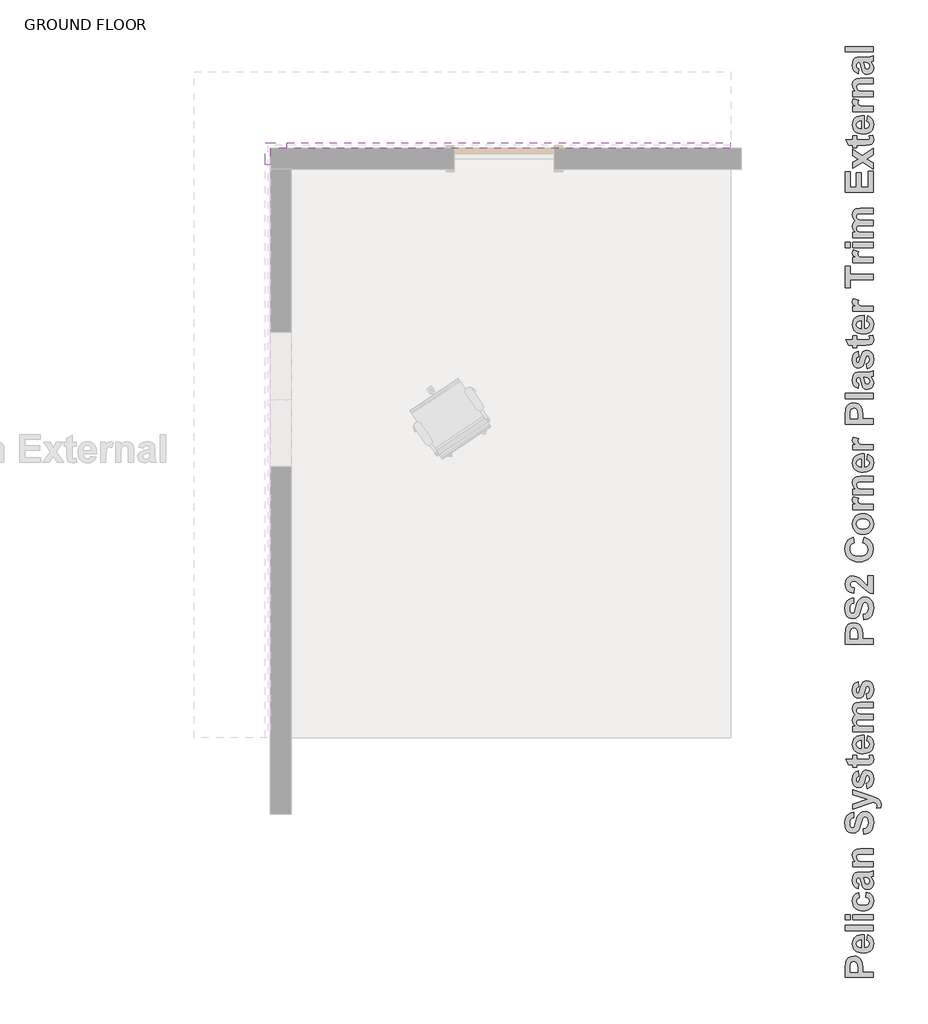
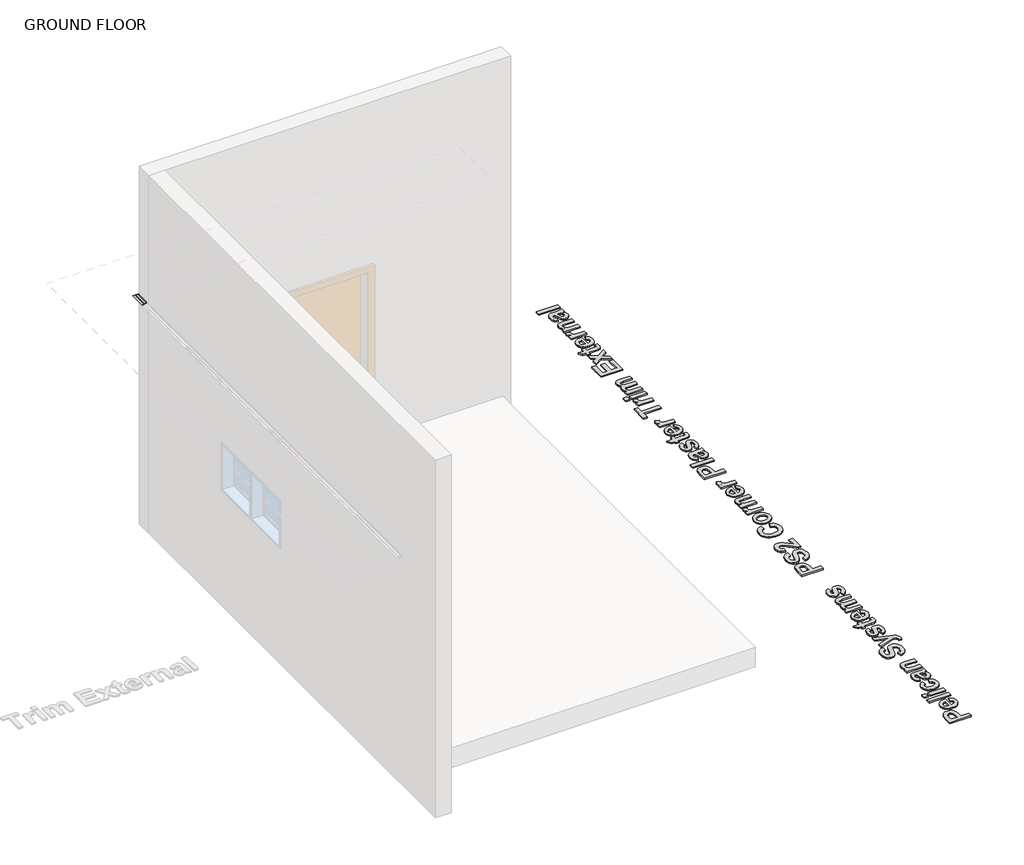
# One storey, part 2 of 2: 3 proxies.
"""IFC4 building model written with IfcOpenShell, lengths in millimetres."""

from ifc_helpers import new_model, si_unit, frame, origin, origin_with_axes, place, context, project, spatial, polyline, outline, extrude, transform, mapped, element, save
from components import ps2_corner_trim_external_86b60009

model = new_model("IFC4")

# Units and contexts
model_context = context("Model", 3, world=origin())
ifc_project = project(units=[si_unit("LENGTHUNIT", "METRE", prefix="MILLI")], contexts=[model_context])

# Site, building, storey
site = spatial("IfcSite", under=ifc_project)
building = spatial("IfcBuilding", under=site)
storey = spatial("IfcBuildingStorey", under=building, Name="GROUND FLOOR", Elevation=0.0)

# Proxies
placement = place(None, origin())
element("IfcBuildingElementProxy", 1, Name="600mm Arial", ObjectType="600mm Arial", at=placement, inside=storey, context=model_context, shape_type="SweptSolid", body=[
    extrude(outline(polyline([(118270.0526446, 57717.1226699), (118014.9877946, 57717.1226699), (118014.9877946, 57799.2975806), (118018.7834025, 57860.2170872), (118027.8375088, 57880.2626413), (118043.6130041, 57896.7498131), (118065.5247321, 57907.7807985), (118092.9875366, 57911.4577937), (118114.4722588, 57909.2990417), (118132.2404482, 57902.8227857), (118146.4423477, 57893.0174654), (118157.2282001, 57880.8715201), (118169.2792552, 57853.8278139), (118172.8850827, 57799.7404015), (118172.8850827, 57765.7064508), (118270.0526446, 57765.7064508), (118270.0526446, 57717.1226699)]), holes=[polyline([(118059.5229271, 57765.7064508), (118128.3499501, 57765.7064508), (118128.3499501, 57795.8815335), (118124.5543422, 57839.436134), (118112.6298075, 57856.6428898), (118103.8445567, 57861.316232), (118093.7466582, 57862.8740127), (118081.6797882, 57860.6836307), (118071.9219129, 57854.1124845), (118064.9316684, 57844.2043664), (118061.1676905, 57832.0030686), (118059.5229271, 57792.3389662), (118059.5229271, 57765.7064508)])]), origin_with_axes(), (0.0, 0.0, 1.0), 15.0),
    extrude(outline(polyline([(118213.3715668, 58057.2091365), (118221.4688636, 58105.7929175), (118244.1397132, 58093.9632729), (118260.658515, 58076.8197773), (118270.7405985, 58054.536396), (118274.101293, 58027.2870943), (118272.1204601, 58005.2844299), (118266.1779615, 57986.3419743), (118256.2737972, 57970.4597275), (118242.4079671, 57957.6376896), (118213.7036825, 57944.2581718), (118178.325454, 57939.7983326), (118156.4848936, 57941.2770381), (118137.1431084, 57945.7131548), (118120.3000984, 57953.1066827), (118105.9558636, 57963.4576217), (118094.4978723, 57976.0701104), (118086.3135928, 57990.2482874), (118081.4030251, 58005.9921526), (118079.7661692, 58023.3017061), (118081.4465164, 58042.5367398), (118086.4875581, 58059.6288365), (118094.8892944, 58074.5779964), (118106.651725, 58087.3842192), (118121.8855554, 58097.5888692), (118140.7014908, 58104.7333103), (118163.0995311, 58108.8175425), (118189.0796763, 58109.8415659), (118189.0796763, 57988.3821135), (118209.5443288, 57991.497675), (118224.8849107, 57999.8321973), (118234.4688206, 58012.1204778), (118237.6634573, 58027.0973139), (118236.2242893, 58037.2980101), (118231.9067853, 58045.7590527), (118224.3946447, 58052.4171816), (118213.3715668, 58057.2091365)]), holes=[polyline([(118160.7391374, 58061.2577849), (118141.53178, 58058.3003738), (118127.5591985, 58050.4403025), (118119.0428033, 58039.0218487), (118116.2040049, 58025.3892904), (118119.1930461, 58010.9976105), (118128.1601697, 57999.3261162), (118142.3146241, 57991.6716403), (118160.7391374, 57989.2044952), (118160.7391374, 58061.2577849)])]), origin_with_axes(), (0.0, 0.0, 1.0), 15.0),
    extrude(outline(polyline([(118270.0526446, 58146.2794016), (118014.9877946, 58146.2794016), (118014.9877946, 58194.8631825), (118270.0526446, 58194.8631825), (118270.0526446, 58146.2794016)])), origin_with_axes(), (0.0, 0.0, 1.0), 15.0),
    extrude(outline(polyline([(118059.5229271, 58243.4469635), (118014.9877946, 58243.4469635), (118014.9877946, 58292.0307444), (118059.5229271, 58292.0307444), (118059.5229271, 58243.4469635)])), origin_with_axes(), (0.0, 0.0, 1.0), 15.0),
    extrude(outline(polyline([(118270.0526446, 58243.4469635), (118083.8148176, 58243.4469635), (118083.8148176, 58292.0307444), (118270.0526446, 58292.0307444), (118270.0526446, 58243.4469635)])), origin_with_axes(), (0.0, 0.0, 1.0), 15.0),
    extrude(outline(polyline([(118136.447247, 58494.4631651), (118144.5445438, 58445.8793841), (118132.1850956, 58442.1549439), (118123.3207697, 58435.5363526), (118117.9831961, 58426.2608359), (118116.2040049, 58414.5656191), (118119.5409768, 58399.161777), (118129.5518926, 58387.2372423), (118147.3754347, 58379.5985814), (118174.1502853, 58377.0523611), (118203.835102, 58379.7013791), (118223.3034074, 58387.6484331), (118234.0734448, 58400.0553264), (118237.6634573, 58416.0838622), (118235.6154105, 58428.2218999), (118229.4712702, 58437.9402376), (118218.3137646, 58445.1914302), (118201.2256216, 58449.9280325), (118209.3229184, 58498.5118135), (118237.4657694, 58487.8762039), (118257.748549, 58470.5192053), (118270.013107, 58446.2826675), (118274.101293, 58415.00844), (118272.4921134, 58396.2419266), (118267.6645746, 58379.4799687), (118259.6186766, 58364.7225661), (118248.3544195, 58351.969719), (118234.2474102, 58341.6879708), (118217.6732557, 58334.3438649), (118198.6319562, 58329.9374013), (118177.1235115, 58328.4685802), (118155.3719106, 58329.9275169), (118136.1704839, 58334.3043273), (118119.5192312, 58341.5990112), (118105.4181525, 58351.8115687), (118094.1954098, 58364.5149938), (118086.179165, 58379.2822807), (118081.3694181, 58396.1134295), (118079.7661692, 58415.00844), (118083.269199, 58444.2504357), (118093.7782883, 58466.8184876), (118111.4515875, 58483.345197), (118136.447247, 58494.4631651)])), origin_with_axes(), (0.0, 0.0, 1.0), 15.0),
    extrude(outline(polyline([(118140.4958954, 58575.4361333), (118132.3985985, 58530.9010008), (118109.05561, 58540.5560783), (118092.671236, 58555.3510416), (118082.9924359, 58576.9148389), (118079.7661692, 58606.8764186), (118081.7193257, 58633.9675699), (118087.5787954, 58653.1195747), (118096.4352138, 58666.0562716), (118107.3792166, 58674.5014992), (118124.3882844, 58679.1511188), (118151.4398981, 58680.700992), (118208.8800975, 58680.700992), (118245.0648926, 58683.2630274), (118270.0526446, 58692.8469373), (118270.0526446, 58644.2631563), (118254.6171725, 58639.7084269), (118248.4809397, 58638.0004033), (118267.6803896, 58612.0004893), (118272.4960671, 58597.6878846), (118274.101293, 58582.4580079), (118270.2028874, 58557.6837589), (118258.5076706, 58538.7768871), (118240.8660014, 58526.7969998), (118219.1282388, 58522.803704), (118204.2304778, 58524.5828952), (118191.0407404, 58529.9204687), (118180.1441827, 58538.468494), (118172.1259611, 58549.8790402), (118160.6758773, 58586.8862171), (118148.5931922, 58632.1172111), (118143.4691215, 58632.1172111), (118130.8487253, 58630.6068755), (118122.4667579, 58626.0758685), (118117.7696931, 58617.369693), (118116.2040049, 58603.3338513), (118117.5482827, 58593.2596754), (118121.5811161, 58585.6842746), (118140.4958954, 58575.4361333)]), holes=[polyline([(118185.0310279, 58632.1172111), (118191.7682319, 58604.7255742), (118199.4543379, 58580.1806432), (118206.3655072, 58573.5857745), (118214.9530701, 58571.3874849), (118223.5643555, 58573.1508611), (118230.9262533, 58578.4409896), (118235.9791563, 58586.4513037), (118237.6634573, 58596.3752368), (118235.7023932, 58608.2839566), (118229.819201, 58619.5917051), (118215.2693707, 58630.3459274), (118193.8241862, 58632.1172111), (118185.0310279, 58632.1172111)])]), origin_with_axes(), (0.0, 0.0, 1.0), 15.0),
    extrude(outline(polyline([(118270.0526446, 58895.2793579), (118270.0526446, 58846.695577), (118174.3400657, 58846.695577), (118134.9922639, 58843.6590907), (118121.1382951, 58833.72725), (118116.2040049, 58817.2163557), (118117.9673811, 58805.4578788), (118123.2575095, 58794.9804195), (118131.4655116, 58786.6933423), (118141.9825085, 58781.5060115), (118185.094288, 58777.8685539), (118270.0526446, 58777.8685539), (118270.0526446, 58729.284773), (118083.8148176, 58729.284773), (118083.8148176, 58777.8685539), (118110.6371133, 58777.8685539), (118097.1310753, 58790.1607882), (118087.4839052, 58803.9475431), (118081.6956032, 58819.2288186), (118079.7661692, 58836.0046147), (118085.6493614, 58864.2186334), (118100.6420126, 58883.5762336), (118121.2964455, 58892.7173226), (118154.4131243, 58895.2793579), (118270.0526446, 58895.2793579)])), origin_with_axes(), (0.0, 0.0, 1.0), 15.0),
    extrude(outline(polyline([(118185.0310279, 59028.8847555), (118180.9823795, 59077.4685365), (118202.7122346, 59084.5536712), (118217.799776, 59096.4465759), (118226.6245643, 59113.2263258), (118229.5661604, 59134.971996), (118226.9645875, 59157.5400479), (118219.1598688, 59173.7504565), (118207.8758429, 59183.5241468), (118194.8363483, 59186.7820436), (118179.6222867, 59181.3733024), (118168.709914, 59162.426893), (118157.8924315, 59120.2956455), (118146.7112033, 59084.3322607), (118133.0311999, 59060.9576422), (118109.7356564, 59042.9759498), (118081.8537535, 59036.9820523), (118063.0654945, 59039.7338681), (118045.5424381, 59047.9893152), (118030.6604921, 59061.4320932), (118019.7955646, 59079.7459012), (118013.1532508, 59102.6302538), (118010.9391462, 59129.7846652), (118016.4585926, 59171.7498549), (118023.3579007, 59188.2904024), (118033.016932, 59201.869585), (118044.9770506, 59212.530894), (118058.7796206, 59220.3178208), (118074.4246418, 59225.2303654), (118091.9121144, 59227.2685277), (118091.9121144, 59178.6847468), (118075.2193472, 59173.3155431), (118063.9827664, 59164.0400264), (118057.6014006, 59150.0041847), (118055.4742787, 59130.3540064), (118057.7358284, 59109.6679434), (118064.5204775, 59094.0426909), (118071.3209416, 59087.6850477), (118080.0824698, 59085.5658333), (118088.353732, 59087.4952673), (118095.3281615, 59093.2835693), (118103.496626, 59110.0870418), (118111.933946, 59140.8868182), (118120.7112893, 59173.7583641), (118129.8998233, 59196.7771444), (118141.025699, 59212.9084779), (118155.6150668, 59225.1176833), (118173.8497997, 59232.8037892), (118195.9117705, 59235.3658246), (118216.9773943, 59232.3372458), (118236.6512952, 59223.2515094), (118253.1938195, 59208.622604), (118264.8653138, 59188.9645181), (118271.7922982, 59164.0637489), (118274.101293, 59133.7067933), (118272.6799169, 59111.0043137), (118268.4157887, 59091.1010948), (118261.3089083, 59073.9971368), (118251.3592757, 59059.6924395), (118238.6855038, 59048.0881592), (118223.4062051, 59039.0854517), (118205.5213799, 59032.6843172), (118185.0310279, 59028.8847555)])), origin_with_axes(), (0.0, 0.0, 1.0), 15.0),
    extrude(outline(polyline([(118083.8148176, 59255.6090666), (118083.8148176, 59304.1928476), (118215.6489315, 59346.7036559), (118083.8148176, 59389.2144642), (118083.8148176, 59437.7982452), (118262.2716484, 59374.7911543), (118295.4199573, 59363.08803), (118319.0159863, 59351.543056), (118332.2373538, 59338.9226597), (118340.1132401, 59321.3679733), (118342.928316, 59297.8668344), (118340.1448702, 59271.8036603), (118304.1498554, 59267.7550119), (118306.4904803, 59287.049352), (118303.9205374, 59300.8163381), (118296.2107089, 59310.4872307), (118270.0526446, 59322.1587249), (118083.8148176, 59255.6090666)])), origin_with_axes(), (0.0, 0.0, 1.0), 15.0),
    extrude(outline(polyline([(118217.4202152, 59445.895542), (118209.3229184, 59494.479323), (118221.5637538, 59499.1052201), (118230.4518023, 59506.9099388), (118235.8605435, 59518.1623347), (118237.6634573, 59533.1312633), (118235.9396187, 59549.373302), (118230.7681029, 59561.0289812), (118225.1379512, 59565.7734911), (118217.8630361, 59567.3549944), (118208.7535772, 59564.0022074), (118202.3643039, 59548.1239144), (118189.9336881, 59501.2007119), (118178.5784945, 59475.3115031), (118160.5968021, 59459.3225049), (118136.7635476, 59453.9928388), (118114.5750565, 59458.5633833), (118096.2138034, 59472.2750168), (118083.8780777, 59495.6021903), (118079.7661692, 59529.0193547), (118083.0873261, 59560.886646), (118093.0507968, 59583.3598076), (118109.530061, 59598.3682738), (118132.3985985, 59607.8414785), (118140.4958954, 59559.2576976), (118130.1054188, 59555.6835001), (118122.4667579, 59549.8951981), (118117.7696931, 59541.5448608), (118116.2040049, 59530.2845574), (118117.5324676, 59516.4464036), (118121.5178559, 59507.1946094), (118131.3864364, 59502.5766198), (118140.1795947, 59507.1946094), (118153.780523, 59550.1798687), (118163.6016584, 59581.4066511), (118175.4787481, 59601.5154654), (118191.1514456, 59612.3329478), (118211.9798439, 59615.9387753), (118235.6786706, 59610.711907), (118255.7874849, 59595.0313019), (118263.7997759, 59583.3222469), (118269.522841, 59569.1025555), (118274.101293, 59533.1312633), (118270.2898701, 59499.8168966), (118258.8556013, 59474.267711), (118240.8739089, 59456.3413712), (118217.4202152, 59445.895542)])), origin_with_axes(), (0.0, 0.0, 1.0), 15.0),
    extrude(outline(polyline([(118083.8148176, 59749.544173), (118120.2526533, 59749.544173), (118120.2526533, 59713.1063372), (118200.1501993, 59713.1063372), (118228.395848, 59714.2133895), (118235.0381618, 59719.24257), (118237.6634573, 59728.7948498), (118232.9822075, 59751.5684972), (118267.5222393, 59753.5928214), (118272.4565296, 59734.8520074), (118274.101293, 59713.8021987), (118269.5465635, 59689.2572677), (118257.7801791, 59673.2208244), (118238.2327984, 59666.1040596), (118202.870385, 59664.5225563), (118120.2526533, 59664.5225563), (118120.2526533, 59640.2306658), (118083.8148176, 59640.2306658), (118083.8148176, 59664.5225563), (118047.3769819, 59664.5225563), (118019.036443, 59713.1063372), (118083.8148176, 59713.1063372), (118083.8148176, 59749.544173)])), origin_with_axes(), (0.0, 0.0, 1.0), 15.0),
    extrude(outline(polyline([(118213.3715668, 59883.1495706), (118221.4688636, 59931.7333515), (118244.1397132, 59919.9037069), (118260.658515, 59902.7602113), (118270.7405985, 59880.47683), (118274.101293, 59853.2275284), (118272.1204601, 59831.2248639), (118266.1779615, 59812.2824083), (118256.2737972, 59796.4001616), (118242.4079671, 59783.5781237), (118213.7036825, 59770.1986059), (118178.325454, 59765.7387666), (118156.4848936, 59767.2174722), (118137.1431084, 59771.6535889), (118120.3000984, 59779.0471168), (118105.9558636, 59789.3980558), (118094.4978723, 59802.0105445), (118086.3135928, 59816.1887214), (118081.4030251, 59831.9325866), (118079.7661692, 59849.2421401), (118081.4465164, 59868.4771738), (118086.4875581, 59885.5692706), (118094.8892944, 59900.5184304), (118106.651725, 59913.3246533), (118121.8855554, 59923.5293032), (118140.7014908, 59930.6737443), (118163.0995311, 59934.7579766), (118189.0796763, 59935.7819999), (118189.0796763, 59814.3225476), (118209.5443288, 59817.438109), (118224.8849107, 59825.7726313), (118234.4688206, 59838.0609119), (118237.6634573, 59853.037748), (118236.2242893, 59863.2384442), (118231.9067853, 59871.6994868), (118224.3946447, 59878.3576156), (118213.3715668, 59883.1495706)]), holes=[polyline([(118160.7391374, 59887.198219), (118141.53178, 59884.2408078), (118127.5591985, 59876.3807365), (118119.0428033, 59864.9622828), (118116.2040049, 59851.3297245), (118119.1930461, 59836.9380445), (118128.1601697, 59825.2665503), (118142.3146241, 59817.6120744), (118160.7391374, 59815.1449293), (118160.7391374, 59887.198219)])]), origin_with_axes(), (0.0, 0.0, 1.0), 15.0),
    extrude(outline(polyline([(118083.8148176, 59968.1711872), (118083.8148176, 60016.7549682), (118108.7393094, 60016.7549682), (118096.0635605, 60028.7150868), (118087.0094542, 60041.7585351), (118081.5769904, 60055.8853132), (118079.7661692, 60071.0954211), (118081.5453604, 60086.7443961), (118086.882934, 60100.1634515), (118095.826335, 60111.3684023), (118108.4230087, 60120.3750635), (118095.826335, 60132.8135868), (118086.882934, 60146.2168272), (118081.5453604, 60160.5689695), (118079.7661692, 60175.8541988), (118081.845846, 60194.3103421), (118088.0848765, 60209.6983691), (118098.3567403, 60221.8126843), (118112.5349173, 60230.4476922), (118128.1127246, 60234.1484099), (118151.0603373, 60235.3819825), (118270.0526446, 60235.3819825), (118270.0526446, 60186.7982015), (118162.8267218, 60186.7982015), (118139.8791091, 60185.5646289), (118126.831707, 60181.8639113), (118118.8609304, 60173.4819438), (118116.2040049, 60161.4941489), (118117.7934157, 60151.7916263), (118122.5616481, 60142.6742598), (118130.3979969, 60135.0830441), (118141.1917568, 60129.9589734), (118179.9702174, 60126.0684753), (118270.0526446, 60126.0684753), (118270.0526446, 60077.4846944), (118167.254931, 60077.4846944), (118131.9241476, 60074.9542891), (118120.094503, 60067.1416629), (118116.2040049, 60052.749983), (118117.7459706, 60042.3595064), (118122.3718677, 60033.0760821), (118129.9156384, 60025.5797565), (118140.2112248, 60020.5505761), (118178.8947952, 60016.7549682), (118270.0526446, 60016.7549682), (118270.0526446, 59968.1711872), (118083.8148176, 59968.1711872)])), origin_with_axes(), (0.0, 0.0, 1.0), 15.0),
    extrude(outline(polyline([(118217.4202152, 60263.7225213), (118209.3229184, 60312.3063023), (118221.5637538, 60316.9321994), (118230.4518023, 60324.7369181), (118235.8605435, 60335.989314), (118237.6634573, 60350.9582426), (118235.9396187, 60367.2002814), (118230.7681029, 60378.8559606), (118225.1379512, 60383.6004704), (118217.8630361, 60385.1819737), (118208.7535772, 60381.8291868), (118202.3643039, 60365.9508938), (118189.9336881, 60319.0276913), (118178.5784945, 60293.1384825), (118160.5968021, 60277.1494842), (118136.7635476, 60271.8198182), (118114.5750565, 60276.3903627), (118096.2138034, 60290.1019962), (118083.8780777, 60313.4291696), (118079.7661692, 60346.8463341), (118083.0873261, 60378.7136253), (118093.0507968, 60401.186787), (118109.530061, 60416.1952532), (118132.3985985, 60425.6684578), (118140.4958954, 60377.0846769), (118130.1054188, 60373.5104795), (118122.4667579, 60367.7221774), (118117.7696931, 60359.3718401), (118116.2040049, 60348.1115367), (118117.5324676, 60334.2733829), (118121.5178559, 60325.0215887), (118131.3864364, 60320.4035991), (118140.1795947, 60325.0215887), (118153.780523, 60368.006848), (118163.6016584, 60399.2336304), (118175.4787481, 60419.3424447), (118191.1514456, 60430.1599272), (118211.9798439, 60433.7657547), (118235.6786706, 60428.5388863), (118255.7874849, 60412.8582812), (118263.7997759, 60401.1492263), (118269.522841, 60386.9295349), (118274.101293, 60350.9582426), (118270.2898701, 60317.6438759), (118258.8556013, 60292.0946903), (118240.8739089, 60274.1683506), (118217.4202152, 60263.7225213)])), origin_with_axes(), (0.0, 0.0, 1.0), 15.0),
    extrude(outline(polyline([(118270.0526446, 60769.8035729), (118014.9877946, 60769.8035729), (118014.9877946, 60851.9784837), (118018.7834025, 60912.8979902), (118027.8375088, 60932.9435444), (118043.6130041, 60949.4307162), (118065.5247321, 60960.4617016), (118092.9875366, 60964.1386967), (118114.4722588, 60961.9799447), (118132.2404482, 60955.5036888), (118146.4423477, 60945.6983684), (118157.2282001, 60933.5524232), (118169.2792552, 60906.508717), (118172.8850827, 60852.4213046), (118172.8850827, 60818.3873539), (118270.0526446, 60818.3873539), (118270.0526446, 60769.8035729)]), holes=[polyline([(118059.5229271, 60818.3873539), (118128.3499501, 60818.3873539), (118128.3499501, 60848.5624366), (118124.5543422, 60892.1170371), (118112.6298075, 60909.3237928), (118103.8445567, 60913.997135), (118093.7466582, 60915.5549158), (118081.6797882, 60913.3645337), (118071.9219129, 60906.7933876), (118064.9316684, 60896.8852695), (118061.1676905, 60884.6839716), (118059.5229271, 60845.0198692), (118059.5229271, 60818.3873539)])]), origin_with_axes(), (0.0, 0.0, 1.0), 15.0),
    extrude(outline(polyline([(118185.0310279, 60992.4792356), (118180.9823795, 61041.0630166), (118202.7122346, 61048.1481513), (118217.799776, 61060.041056), (118226.6245643, 61076.8208059), (118229.5661604, 61098.566476), (118226.9645875, 61121.1345279), (118219.1598688, 61137.3449366), (118207.8758429, 61147.1186269), (118194.8363483, 61150.3765237), (118179.6222867, 61144.9677825), (118168.709914, 61126.0213731), (118157.8924315, 61083.8901255), (118146.7112033, 61047.9267408), (118133.0311999, 61024.5521222), (118109.7356564, 61006.5704299), (118081.8537535, 61000.5765324), (118063.0654945, 61003.3283481), (118045.5424381, 61011.5837953), (118030.6604921, 61025.0265732), (118019.7955646, 61043.3403813), (118013.1532508, 61066.2247338), (118010.9391462, 61093.3791453), (118016.4585926, 61135.344335), (118023.3579007, 61151.8848824), (118033.016932, 61165.464065), (118044.9770506, 61176.1253741), (118058.7796206, 61183.9123009), (118074.4246418, 61188.8248455), (118091.9121144, 61190.8630078), (118091.9121144, 61142.2792269), (118075.2193472, 61136.9100232), (118063.9827664, 61127.6345064), (118057.6014006, 61113.5986648), (118055.4742787, 61093.9484864), (118057.7358284, 61073.2624235), (118064.5204775, 61057.637171), (118071.3209416, 61051.2795278), (118080.0824698, 61049.1603134), (118088.353732, 61051.0897474), (118095.3281615, 61056.8780494), (118103.496626, 61073.6815218), (118111.933946, 61104.4812983), (118120.7112893, 61137.3528441), (118129.8998233, 61160.3716245), (118141.025699, 61176.502958), (118155.6150668, 61188.7121633), (118173.8497997, 61196.3982693), (118195.9117705, 61198.9603046), (118216.9773943, 61195.9317258), (118236.6512952, 61186.8459895), (118253.1938195, 61172.2170841), (118264.8653138, 61152.5589982), (118271.7922982, 61127.658229), (118274.101293, 61097.3012734), (118272.6799169, 61074.5987937), (118268.4157887, 61054.6955749), (118261.3089083, 61037.5916168), (118251.3592757, 61023.2869196), (118238.6855038, 61011.6826393), (118223.4062051, 61002.6799318), (118205.5213799, 60996.2787972), (118185.0310279, 60992.4792356)])), origin_with_axes(), (0.0, 0.0, 1.0), 15.0),
    extrude(outline(polyline([(118221.4688636, 61393.2954284), (118270.0526446, 61393.2954284), (118270.0526446, 61231.3494919), (118245.5472511, 61236.5210077), (118222.3861355, 61246.8482241), (118196.2043486, 61266.031859), (118162.6369414, 61297.77263), (118121.8974167, 61335.349148), (118107.1894362, 61342.3710226), (118092.671236, 61344.7116475), (118078.5246891, 61342.7426759), (118068.0946749, 61336.8357611), (118061.6658641, 61327.4653542), (118059.5229271, 61315.105906), (118061.634234, 61302.8334405), (118067.9681547, 61293.3444208), (118079.1889205, 61286.9551475), (118095.9607628, 61283.9819213), (118091.5325536, 61235.3981404), (118056.3836431, 61244.0015182), (118043.1444837, 61251.6243641), (118032.7955216, 61261.4613145), (118019.4397263, 61286.0853207), (118014.9877946, 61316.1813282), (118019.9774374, 61348.317475), (118034.946366, 61372.7358857), (118057.3325451, 61388.1555428), (118084.5739392, 61393.2954284), (118116.7100859, 61387.6652767), (118148.6564523, 61369.8259197), (118180.5395586, 61339.6192069), (118208.184236, 61311.8796393), (118221.4688636, 61302.7701803), (118221.4688636, 61393.2954284)])), origin_with_axes(), (0.0, 0.0, 1.0), 15.0),
    extrude(outline(polyline([(118172.8850827, 61696.9440594), (118189.0796763, 61745.5278403), (118224.8611882, 61730.2030735), (118238.796209, 61719.6821229), (118250.0940731, 61707.2554608), (118265.0630017, 61676.8905977), (118270.0526446, 61639.3140796), (118267.9215689, 61614.9866053), (118261.5283419, 61592.9285883), (118250.8729635, 61573.1400284), (118235.9554337, 61555.6209257), (118217.34114, 61541.2845984), (118195.5954699, 61531.0443647), (118170.7184232, 61524.9002244), (118142.71, 61522.8521776), (118113.1754261, 61524.9180163), (118087.1359745, 61531.1155323), (118064.5916451, 61541.4447256), (118045.5424381, 61555.9055963), (118030.4034979, 61573.735069), (118019.5899691, 61594.1700683), (118013.1018519, 61617.2105943), (118010.9391462, 61642.856647), (118012.7222911, 61665.2823636), (118018.071726, 61685.4939756), (118026.9874508, 61703.491483), (118039.4694654, 61719.2748858), (118059.9815631, 61734.5996526), (118087.863466, 61745.5278403), (118095.9607628, 61696.9440594), (118079.1572904, 61689.5030864), (118066.3233912, 61676.7957075), (118058.1865568, 61659.8024547), (118055.4742787, 61639.50386), (118060.4006614, 61612.0568705), (118075.1798096, 61590.3191078), (118086.5567489, 61582.05773), (118100.9820358, 61576.1567459), (118138.9776522, 61571.4359586), (118179.0529455, 61576.0144106), (118194.0376891, 61581.7374756), (118205.6538308, 61589.7497666), (118220.5515917, 61610.8232979), (118225.517512, 61637.4162757), (118222.3465979, 61657.4934599), (118212.8338557, 61674.5816029), (118196.5048342, 61687.9690282), (118172.8850827, 61696.9440594)])), origin_with_axes(), (0.0, 0.0, 1.0), 15.0),
    extrude(outline(polyline([(118174.2768056, 61773.8683792), (118150.182603, 61776.8653279), (118126.863337, 61785.8561741), (118106.6438175, 61800.3348367), (118091.8488543, 61819.7952346), (118082.7868405, 61843.0275179), (118079.7661692, 61868.8218365), (118081.4781465, 61888.8140149), (118086.6140784, 61906.9123432), (118095.1739649, 61923.1168212), (118107.1578061, 61937.4274491), (118121.7590352, 61949.120689), (118138.1710855, 61957.4730032), (118156.3939571, 61962.4843918), (118176.42765, 61964.1548546), (118196.6214701, 61962.4665998), (118215.0084227, 61957.4018356), (118231.5885078, 61948.9605618), (118246.3617253, 61937.1427785), (118258.4977862, 61922.7669136), (118267.1664011, 61906.6513951), (118272.36757, 61888.796223), (118274.101293, 61869.2013973), (118271.2150495, 61844.4271483), (118262.556319, 61820.8390268), (118248.3148819, 61800.5957848), (118228.6805186, 61785.8561741), (118203.9141771, 61776.8653279), (118174.2768056, 61773.8683792)]), holes=[polyline([(118176.9337311, 61822.4521602), (118202.9099226, 61825.8128547), (118222.0065747, 61835.8949381), (118233.7492366, 61850.9113118), (118237.6634573, 61869.074877), (118233.7492366, 61887.2226273), (118222.0065747, 61902.1915559), (118202.8150324, 61912.2261942), (118176.5541703, 61915.5710737), (118150.8626494, 61912.2261942), (118131.8608874, 61902.1915559), (118120.1182255, 61887.2226273), (118116.2040049, 61869.074877), (118120.1182255, 61850.9113118), (118131.8608874, 61835.8949381), (118150.9575396, 61825.8128547), (118176.9337311, 61822.4521602)])]), origin_with_axes(), (0.0, 0.0, 1.0), 15.0),
    extrude(outline(polyline([(118270.0526446, 62049.1764713), (118270.0526446, 62000.5926903), (118083.8148176, 62000.5926903), (118083.8148176, 62049.1764713), (118109.7514715, 62049.1764713), (118085.5544712, 62068.5973316), (118079.7661692, 62088.2079724), (118082.3282045, 62103.3745889), (118090.0143105, 62118.0034943), (118136.2574666, 62103.8332248), (118130.3268292, 62092.1301005), (118128.3499501, 62081.312618), (118133.8852116, 62064.2007525), (118141.6424852, 62057.9538145), (118153.8437831, 62053.1934896), (118214.3204688, 62049.1764713), (118270.0526446, 62049.1764713)])), origin_with_axes(), (0.0, 0.0, 1.0), 15.0),
    extrude(outline(polyline([(118270.0526446, 62304.2413213), (118270.0526446, 62255.6575403), (118174.3400657, 62255.6575403), (118134.9922639, 62252.621054), (118121.1382951, 62242.6892134), (118116.2040049, 62226.1783191), (118117.9673811, 62214.4198421), (118123.2575095, 62203.9423829), (118131.4655116, 62195.6553056), (118141.9825085, 62190.4679749), (118185.094288, 62186.8305173), (118270.0526446, 62186.8305173), (118270.0526446, 62138.2467363), (118083.8148176, 62138.2467363), (118083.8148176, 62186.8305173), (118110.6371133, 62186.8305173), (118097.1310753, 62199.1227516), (118087.4839052, 62212.9095065), (118081.6956032, 62228.190782), (118079.7661692, 62244.9665781), (118085.6493614, 62273.1805967), (118100.6420126, 62292.5381969), (118121.2964455, 62301.6792859), (118154.4131243, 62304.2413213), (118270.0526446, 62304.2413213)])), origin_with_axes(), (0.0, 0.0, 1.0), 15.0),
    extrude(outline(polyline([(118213.3715668, 62458.0899609), (118221.4688636, 62506.6737419), (118244.1397132, 62494.8440973), (118260.658515, 62477.7006017), (118270.7405985, 62455.4172204), (118274.101293, 62428.1679188), (118272.1204601, 62406.1652543), (118266.1779615, 62387.2227987), (118256.2737972, 62371.3405519), (118242.4079671, 62358.518514), (118213.7036825, 62345.1389962), (118178.325454, 62340.679157), (118156.4848936, 62342.1578625), (118137.1431084, 62346.5939793), (118120.3000984, 62353.9875071), (118105.9558636, 62364.3384461), (118094.4978723, 62376.9509348), (118086.3135928, 62391.1291118), (118081.4030251, 62406.872977), (118079.7661692, 62424.1825305), (118081.4465164, 62443.4175642), (118086.4875581, 62460.509661), (118094.8892944, 62475.4588208), (118106.651725, 62488.2650436), (118121.8855554, 62498.4696936), (118140.7014908, 62505.6141347), (118163.0995311, 62509.6983669), (118189.0796763, 62510.7223903), (118189.0796763, 62389.2629379), (118209.5443288, 62392.3784994), (118224.8849107, 62400.7130217), (118234.4688206, 62413.0013022), (118237.6634573, 62427.9781384), (118236.2242893, 62438.1788346), (118231.9067853, 62446.6398771), (118224.3946447, 62453.298006), (118213.3715668, 62458.0899609)]), holes=[polyline([(118160.7391374, 62462.1386093), (118141.53178, 62459.1811982), (118127.5591985, 62451.3211269), (118119.0428033, 62439.9026731), (118116.2040049, 62426.2701148), (118119.1930461, 62411.8784349), (118128.1601697, 62400.2069407), (118142.3146241, 62392.5524648), (118160.7391374, 62390.0853196), (118160.7391374, 62462.1386093)])]), origin_with_axes(), (0.0, 0.0, 1.0), 15.0),
    extrude(outline(polyline([(118270.0526446, 62595.744007), (118270.0526446, 62547.160226), (118083.8148176, 62547.160226), (118083.8148176, 62595.744007), (118109.7514715, 62595.744007), (118085.5544712, 62615.1648673), (118079.7661692, 62634.7755081), (118082.3282045, 62649.9421246), (118090.0143105, 62664.57103), (118136.2574666, 62650.4007605), (118130.3268292, 62638.6976362), (118128.3499501, 62627.8801537), (118133.8852116, 62610.7682882), (118141.6424852, 62604.5213502), (118153.8437831, 62599.7610253), (118214.3204688, 62595.744007), (118270.0526446, 62595.744007)])), origin_with_axes(), (0.0, 0.0, 1.0), 15.0),
    extrude(outline(polyline([(118270.0526446, 62781.9818339), (118014.9877946, 62781.9818339), (118014.9877946, 62864.1567447), (118018.7834025, 62925.0762513), (118027.8375088, 62945.1218054), (118043.6130041, 62961.6089772), (118065.5247321, 62972.6399626), (118092.9875366, 62976.3169577), (118114.4722588, 62974.1582058), (118132.2404482, 62967.6819498), (118146.4423477, 62957.8766294), (118157.2282001, 62945.7306842), (118169.2792552, 62918.686978), (118172.8850827, 62864.5995656), (118172.8850827, 62830.5656149), (118270.0526446, 62830.5656149), (118270.0526446, 62781.9818339)]), holes=[polyline([(118059.5229271, 62830.5656149), (118128.3499501, 62830.5656149), (118128.3499501, 62860.7406976), (118124.5543422, 62904.2952981), (118112.6298075, 62921.5020538), (118103.8445567, 62926.1753961), (118093.7466582, 62927.7331768), (118081.6797882, 62925.5427947), (118071.9219129, 62918.9716486), (118064.9316684, 62909.0635305), (118061.1676905, 62896.8622326), (118059.5229271, 62857.1981302), (118059.5229271, 62830.5656149)])]), origin_with_axes(), (0.0, 0.0, 1.0), 15.0),
    extrude(outline(polyline([(118270.0526446, 63016.8034419), (118014.9877946, 63016.8034419), (118014.9877946, 63065.3872228), (118270.0526446, 63065.3872228), (118270.0526446, 63016.8034419)])), origin_with_axes(), (0.0, 0.0, 1.0), 15.0),
    extrude(outline(polyline([(118140.4958954, 63154.4574879), (118132.3985985, 63109.9223554), (118109.05561, 63119.5774329), (118092.671236, 63134.3723962), (118082.9924359, 63155.9361935), (118079.7661692, 63185.8977732), (118081.7193257, 63212.9889245), (118087.5787954, 63232.1409293), (118096.4352138, 63245.0776262), (118107.3792166, 63253.5228537), (118124.3882844, 63258.1724734), (118151.4398981, 63259.7223466), (118208.8800975, 63259.7223466), (118245.0648926, 63262.2843819), (118270.0526446, 63271.8682919), (118270.0526446, 63223.2845109), (118254.6171725, 63218.7297814), (118248.4809397, 63217.0217579), (118267.6803896, 63191.0218439), (118272.4960671, 63176.7092391), (118274.101293, 63161.4793625), (118270.2028874, 63136.7051135), (118258.5076706, 63117.7982417), (118240.8660014, 63105.8183543), (118219.1282388, 63101.8250585), (118204.2304778, 63103.6042497), (118191.0407404, 63108.9418233), (118180.1441827, 63117.4898486), (118172.1259611, 63128.9003948), (118160.6758773, 63165.9075717), (118148.5931922, 63211.1385657), (118143.4691215, 63211.1385657), (118130.8487253, 63209.62823), (118122.4667579, 63205.0972231), (118117.7696931, 63196.3910475), (118116.2040049, 63182.3552059), (118117.5482827, 63172.2810299), (118121.5811161, 63164.7056292), (118140.4958954, 63154.4574879)]), holes=[polyline([(118185.0310279, 63211.1385657), (118191.7682319, 63183.7469287), (118199.4543379, 63159.2019977), (118206.3655072, 63152.607129), (118214.9530701, 63150.4088395), (118223.5643555, 63152.1722156), (118230.9262533, 63157.4623441), (118235.9791563, 63165.4726583), (118237.6634573, 63175.3965914), (118235.7023932, 63187.3053111), (118229.819201, 63198.6130596), (118215.2693707, 63209.367282), (118193.8241862, 63211.1385657), (118185.0310279, 63211.1385657)])]), origin_with_axes(), (0.0, 0.0, 1.0), 15.0),
    extrude(outline(polyline([(118217.4202152, 63288.0628855), (118209.3229184, 63336.6466665), (118221.5637538, 63341.2725636), (118230.4518023, 63349.0772823), (118235.8605435, 63360.3296782), (118237.6634573, 63375.2986068), (118235.9396187, 63391.5406455), (118230.7681029, 63403.1963247), (118225.1379512, 63407.9408346), (118217.8630361, 63409.5223379), (118208.7535772, 63406.1695509), (118202.3643039, 63390.2912579), (118189.9336881, 63343.3680554), (118178.5784945, 63317.4788466), (118160.5968021, 63301.4898484), (118136.7635476, 63296.1601823), (118114.5750565, 63300.7307268), (118096.2138034, 63314.4423603), (118083.8780777, 63337.7695338), (118079.7661692, 63371.1866982), (118083.0873261, 63403.0539894), (118093.0507968, 63425.5271511), (118109.530061, 63440.5356173), (118132.3985985, 63450.008822), (118140.4958954, 63401.4250411), (118130.1054188, 63397.8508436), (118122.4667579, 63392.0625416), (118117.7696931, 63383.7122042), (118116.2040049, 63372.4519009), (118117.5324676, 63358.6137471), (118121.5178559, 63349.3619529), (118131.3864364, 63344.7439633), (118140.1795947, 63349.3619529), (118153.780523, 63392.3472122), (118163.6016584, 63423.5739946), (118175.4787481, 63443.6828089), (118191.1514456, 63454.5002913), (118211.9798439, 63458.1061188), (118235.6786706, 63452.8792505), (118255.7874849, 63437.1986454), (118263.7997759, 63425.4895904), (118269.522841, 63411.269899), (118274.101293, 63375.2986068), (118270.2898701, 63341.98424), (118258.8556013, 63316.4350545), (118240.8739089, 63298.5087147), (118217.4202152, 63288.0628855)])), origin_with_axes(), (0.0, 0.0, 1.0), 15.0),
    extrude(outline(polyline([(118083.8148176, 63591.7115164), (118120.2526533, 63591.7115164), (118120.2526533, 63555.2736807), (118200.1501993, 63555.2736807), (118228.395848, 63556.380733), (118235.0381618, 63561.4099135), (118237.6634573, 63570.9621933), (118232.9822075, 63593.7358406), (118267.5222393, 63595.7601649), (118272.4565296, 63577.0193509), (118274.101293, 63555.9695422), (118269.5465635, 63531.4246112), (118257.7801791, 63515.3881679), (118238.2327984, 63508.2714031), (118202.870385, 63506.6898998), (118120.2526533, 63506.6898998), (118120.2526533, 63482.3980093), (118083.8148176, 63482.3980093), (118083.8148176, 63506.6898998), (118047.3769819, 63506.6898998), (118019.036443, 63555.2736807), (118083.8148176, 63555.2736807), (118083.8148176, 63591.7115164)])), origin_with_axes(), (0.0, 0.0, 1.0), 15.0),
    extrude(outline(polyline([(118213.3715668, 63725.3169141), (118221.4688636, 63773.900695), (118244.1397132, 63762.0710504), (118260.658515, 63744.9275548), (118270.7405985, 63722.6441735), (118274.101293, 63695.3948719), (118272.1204601, 63673.3922074), (118266.1779615, 63654.4497518), (118256.2737972, 63638.5675051), (118242.4079671, 63625.7454672), (118213.7036825, 63612.3659494), (118178.325454, 63607.9061101), (118156.4848936, 63609.3848157), (118137.1431084, 63613.8209324), (118120.3000984, 63621.2144602), (118105.9558636, 63631.5653993), (118094.4978723, 63644.177888), (118086.3135928, 63658.3560649), (118081.4030251, 63674.0999301), (118079.7661692, 63691.4094836), (118081.4465164, 63710.6445173), (118086.4875581, 63727.7366141), (118094.8892944, 63742.6857739), (118106.651725, 63755.4919968), (118121.8855554, 63765.6966467), (118140.7014908, 63772.8410878), (118163.0995311, 63776.92532), (118189.0796763, 63777.9493434), (118189.0796763, 63656.489891), (118209.5443288, 63659.6054525), (118224.8849107, 63667.9399748), (118234.4688206, 63680.2282554), (118237.6634573, 63695.2050915), (118236.2242893, 63705.4057877), (118231.9067853, 63713.8668303), (118224.3946447, 63720.5249591), (118213.3715668, 63725.3169141)]), holes=[polyline([(118160.7391374, 63729.3655625), (118141.53178, 63726.4081513), (118127.5591985, 63718.54808), (118119.0428033, 63707.1296263), (118116.2040049, 63693.4970679), (118119.1930461, 63679.105388), (118128.1601697, 63667.4338938), (118142.3146241, 63659.7794179), (118160.7391374, 63657.3122728), (118160.7391374, 63729.3655625)])]), origin_with_axes(), (0.0, 0.0, 1.0), 15.0),
    extrude(outline(polyline([(118270.0526446, 63862.9709601), (118270.0526446, 63814.3871791), (118083.8148176, 63814.3871791), (118083.8148176, 63862.9709601), (118109.7514715, 63862.9709601), (118085.5544712, 63882.3918204), (118079.7661692, 63902.0024612), (118082.3282045, 63917.1690777), (118090.0143105, 63931.7979831), (118136.2574666, 63917.6277137), (118130.3268292, 63905.9245893), (118128.3499501, 63895.1071069), (118133.8852116, 63877.9952413), (118141.6424852, 63871.7483033), (118153.8437831, 63866.9879784), (118214.3204688, 63862.9709601), (118270.0526446, 63862.9709601)])), origin_with_axes(), (0.0, 0.0, 1.0), 15.0),
    extrude(outline(polyline([(118270.0526446, 64105.8898648), (118059.5229271, 64105.8898648), (118059.5229271, 64033.0141934), (118014.9877946, 64033.0141934), (118014.9877946, 64227.3493172), (118059.5229271, 64227.3493172), (118059.5229271, 64154.4736458), (118270.0526446, 64154.4736458), (118270.0526446, 64105.8898648)])), origin_with_axes(), (0.0, 0.0, 1.0), 15.0),
    extrude(outline(polyline([(118270.0526446, 64308.3222855), (118270.0526446, 64259.7385045), (118083.8148176, 64259.7385045), (118083.8148176, 64308.3222855), (118109.7514715, 64308.3222855), (118085.5544712, 64327.7431458), (118079.7661692, 64347.3537866), (118082.3282045, 64362.5204031), (118090.0143105, 64377.1493085), (118136.2574666, 64362.979039), (118130.3268292, 64351.2759147), (118128.3499501, 64340.4584322), (118133.8852116, 64323.3465667), (118141.6424852, 64317.0996287), (118153.8437831, 64312.3393038), (118214.3204688, 64308.3222855), (118270.0526446, 64308.3222855)])), origin_with_axes(), (0.0, 0.0, 1.0), 15.0),
    extrude(outline(polyline([(118059.5229271, 64397.3925505), (118014.9877946, 64397.3925505), (118014.9877946, 64445.9763315), (118059.5229271, 64445.9763315), (118059.5229271, 64397.3925505)])), origin_with_axes(), (0.0, 0.0, 1.0), 15.0),
    extrude(outline(polyline([(118270.0526446, 64397.3925505), (118083.8148176, 64397.3925505), (118083.8148176, 64445.9763315), (118270.0526446, 64445.9763315), (118270.0526446, 64397.3925505)])), origin_with_axes(), (0.0, 0.0, 1.0), 15.0),
    extrude(outline(polyline([(118083.8148176, 64490.511464), (118083.8148176, 64539.095245), (118108.7393094, 64539.095245), (118096.0635605, 64551.0553636), (118087.0094542, 64564.0988119), (118081.5769904, 64578.22559), (118079.7661692, 64593.4356979), (118081.5453604, 64609.0846729), (118086.882934, 64622.5037283), (118095.826335, 64633.7086791), (118108.4230087, 64642.7153403), (118095.826335, 64655.1538636), (118086.882934, 64668.557104), (118081.5453604, 64682.9092463), (118079.7661692, 64698.1944756), (118081.845846, 64716.6506189), (118088.0848765, 64732.0386459), (118098.3567403, 64744.1529611), (118112.5349173, 64752.787969), (118128.1127246, 64756.4886867), (118151.0603373, 64757.7222593), (118270.0526446, 64757.7222593), (118270.0526446, 64709.1384783), (118162.8267218, 64709.1384783), (118139.8791091, 64707.9049057), (118126.831707, 64704.204188), (118118.8609304, 64695.8222206), (118116.2040049, 64683.8344257), (118117.7934157, 64674.1319031), (118122.5616481, 64665.0145366), (118130.3979969, 64657.4233208), (118141.1917568, 64652.2992502), (118179.9702174, 64648.4087521), (118270.0526446, 64648.4087521), (118270.0526446, 64599.8249712), (118167.254931, 64599.8249712), (118131.9241476, 64597.2945659), (118120.094503, 64589.4819397), (118116.2040049, 64575.0902598), (118117.7459706, 64564.6997832), (118122.3718677, 64555.4163589), (118129.9156384, 64547.9200333), (118140.2112248, 64542.8908529), (118178.8947952, 64539.095245), (118270.0526446, 64539.095245), (118270.0526446, 64490.511464), (118083.8148176, 64490.511464)])), origin_with_axes(), (0.0, 0.0, 1.0), 15.0),
    extrude(outline(polyline([(118270.0526446, 64903.4736021), (118014.9877946, 64903.4736021), (118014.9877946, 65093.7600775), (118059.5229271, 65093.7600775), (118059.5229271, 64952.0573831), (118116.2040049, 64952.0573831), (118116.2040049, 65085.6627807), (118160.7391374, 65085.6627807), (118160.7391374, 64952.0573831), (118225.517512, 64952.0573831), (118225.517512, 65097.8087259), (118270.0526446, 65097.8087259), (118270.0526446, 64903.4736021)])), origin_with_axes(), (0.0, 0.0, 1.0), 15.0),
    extrude(outline(polyline([(118270.0526446, 65116.0276438), (118174.1502853, 65181.8181805), (118083.8148176, 65124.1249406), (118083.8148176, 65181.8814406), (118134.9922639, 65209.968939), (118083.8148176, 65240.4603223), (118083.8148176, 65298.2168223), (118171.9994408, 65238.8155589), (118270.0526446, 65306.3141191), (118270.0526446, 65248.5576191), (118212.3594047, 65209.968939), (118270.0526446, 65173.7841438), (118270.0526446, 65116.0276438)])), origin_with_axes(), (0.0, 0.0, 1.0), 15.0),
    extrude(outline(polyline([(118083.8148176, 65421.7005989), (118120.2526533, 65421.7005989), (118120.2526533, 65385.2627632), (118200.1501993, 65385.2627632), (118228.395848, 65386.3698155), (118235.0381618, 65391.3989959), (118237.6634573, 65400.9512758), (118232.9822075, 65423.7249231), (118267.5222393, 65425.7492473), (118272.4565296, 65407.0084334), (118274.101293, 65385.9586246), (118269.5465635, 65361.4136936), (118257.7801791, 65345.3772503), (118238.2327984, 65338.2604855), (118202.870385, 65336.6789822), (118120.2526533, 65336.6789822), (118120.2526533, 65312.3870918), (118083.8148176, 65312.3870918), (118083.8148176, 65336.6789822), (118047.3769819, 65336.6789822), (118019.036443, 65385.2627632), (118083.8148176, 65385.2627632), (118083.8148176, 65421.7005989)])), origin_with_axes(), (0.0, 0.0, 1.0), 15.0),
    extrude(outline(polyline([(118213.3715668, 65555.3059965), (118221.4688636, 65603.8897775), (118244.1397132, 65592.0601329), (118260.658515, 65574.9166373), (118270.7405985, 65552.633256), (118274.101293, 65525.3839543), (118272.1204601, 65503.3812899), (118266.1779615, 65484.4388343), (118256.2737972, 65468.5565875), (118242.4079671, 65455.7345496), (118213.7036825, 65442.3550318), (118178.325454, 65437.8951926), (118156.4848936, 65439.3738981), (118137.1431084, 65443.8100148), (118120.3000984, 65451.2035427), (118105.9558636, 65461.5544817), (118094.4978723, 65474.1669704), (118086.3135928, 65488.3451474), (118081.4030251, 65504.0890126), (118079.7661692, 65521.3985661), (118081.4465164, 65540.6335998), (118086.4875581, 65557.7256965), (118094.8892944, 65572.6748564), (118106.651725, 65585.4810792), (118121.8855554, 65595.6857292), (118140.7014908, 65602.8301703), (118163.0995311, 65606.9144025), (118189.0796763, 65607.9384259), (118189.0796763, 65486.4789735), (118209.5443288, 65489.594535), (118224.8849107, 65497.9290573), (118234.4688206, 65510.2173378), (118237.6634573, 65525.194174), (118236.2242893, 65535.3948701), (118231.9067853, 65543.8559127), (118224.3946447, 65550.5140416), (118213.3715668, 65555.3059965)]), holes=[polyline([(118160.7391374, 65559.3546449), (118141.53178, 65556.3972338), (118127.5591985, 65548.5371625), (118119.0428033, 65537.1187087), (118116.2040049, 65523.4861504), (118119.1930461, 65509.0944705), (118128.1601697, 65497.4229762), (118142.3146241, 65489.7685003), (118160.7391374, 65487.3013552), (118160.7391374, 65559.3546449)])]), origin_with_axes(), (0.0, 0.0, 1.0), 15.0),
    extrude(outline(polyline([(118270.0526446, 65692.9600425), (118270.0526446, 65644.3762616), (118083.8148176, 65644.3762616), (118083.8148176, 65692.9600425), (118109.7514715, 65692.9600425), (118085.5544712, 65712.3809029), (118079.7661692, 65731.9915436), (118082.3282045, 65747.1581602), (118090.0143105, 65761.7870656), (118136.2574666, 65747.6167961), (118130.3268292, 65735.9136718), (118128.3499501, 65725.0961893), (118133.8852116, 65707.9843238), (118141.6424852, 65701.7373858), (118153.8437831, 65696.9770609), (118214.3204688, 65692.9600425), (118270.0526446, 65692.9600425)])), origin_with_axes(), (0.0, 0.0, 1.0), 15.0),
    extrude(outline(polyline([(118270.0526446, 65948.0248925), (118270.0526446, 65899.4411116), (118174.3400657, 65899.4411116), (118134.9922639, 65896.4046253), (118121.1382951, 65886.4727846), (118116.2040049, 65869.9618903), (118117.9673811, 65858.2034134), (118123.2575095, 65847.7259541), (118131.4655116, 65839.4388769), (118141.9825085, 65834.2515461), (118185.094288, 65830.6140886), (118270.0526446, 65830.6140886), (118270.0526446, 65782.0303076), (118083.8148176, 65782.0303076), (118083.8148176, 65830.6140886), (118110.6371133, 65830.6140886), (118097.1310753, 65842.9063229), (118087.4839052, 65856.6930778), (118081.6956032, 65871.9743533), (118079.7661692, 65888.7501494), (118085.6493614, 65916.964168), (118100.6420126, 65936.3217682), (118121.2964455, 65945.4628572), (118154.4131243, 65948.0248925), (118270.0526446, 65948.0248925)])), origin_with_axes(), (0.0, 0.0, 1.0), 15.0),
    extrude(outline(polyline([(118140.4958954, 66037.0951576), (118132.3985985, 65992.5600251), (118109.05561, 66002.2151026), (118092.671236, 66017.0100659), (118082.9924359, 66038.5738632), (118079.7661692, 66068.5354429), (118081.7193257, 66095.6265942), (118087.5787954, 66114.778599), (118096.4352138, 66127.7152959), (118107.3792166, 66136.1605235), (118124.3882844, 66140.8101431), (118151.4398981, 66142.3600163), (118208.8800975, 66142.3600163), (118245.0648926, 66144.9220517), (118270.0526446, 66154.5059616), (118270.0526446, 66105.9221806), (118254.6171725, 66101.3674512), (118248.4809397, 66099.6594276), (118267.6803896, 66073.6595136), (118272.4960671, 66059.3469088), (118274.101293, 66044.1170322), (118270.2028874, 66019.3427832), (118258.5076706, 66000.4359114), (118240.8660014, 65988.456024), (118219.1282388, 65984.4627282), (118204.2304778, 65986.2419194), (118191.0407404, 65991.579493), (118180.1441827, 66000.1275183), (118172.1259611, 66011.5380645), (118160.6758773, 66048.5452414), (118148.5931922, 66093.7762354), (118143.4691215, 66093.7762354), (118130.8487253, 66092.2658997), (118122.4667579, 66087.7348928), (118117.7696931, 66079.0287172), (118116.2040049, 66064.9928756), (118117.5482827, 66054.9186996), (118121.5811161, 66047.3432989), (118140.4958954, 66037.0951576)]), holes=[polyline([(118185.0310279, 66093.7762354), (118191.7682319, 66066.3845985), (118199.4543379, 66041.8396675), (118206.3655072, 66035.2447988), (118214.9530701, 66033.0465092), (118223.5643555, 66034.8098854), (118230.9262533, 66040.1000139), (118235.9791563, 66048.110328), (118237.6634573, 66058.0342611), (118235.7023932, 66069.9429809), (118229.819201, 66081.2507294), (118215.2693707, 66092.0049517), (118193.8241862, 66093.7762354), (118185.0310279, 66093.7762354)])]), origin_with_axes(), (0.0, 0.0, 1.0), 15.0),
    extrude(outline(polyline([(118270.0526446, 66190.9437973), (118014.9877946, 66190.9437973), (118014.9877946, 66239.5275782), (118270.0526446, 66239.5275782), (118270.0526446, 66190.9437973)])), origin_with_axes(), (0.0, 0.0, 1.0), 15.0),
])
ps2_corner_trim_external_shape = ps2_corner_trim_external_86b60009(model_context)
element("IfcBuildingElementProxy", 2, Name="PS2 Corner Trim - External : Pelican Systems Plaster Trim 25 x 20", ObjectType="PS2 Corner Trim - External : Pelican Systems Plaster Trim 25 x 20", at=placement, inside=storey, context=model_context, shape_type="MappedRepresentation", body=[
    mapped(ps2_corner_trim_external_shape, transform((112722.7345529, 65337.9193804, 2620.0), x_axis=(0.0, -1.0, 0.0), y_axis=(1.0, 0.0, 0.0), z_axis=(0.0, 0.0, 1.0))),
])
element("IfcBuildingElementProxy", 3, Name="TR02 : Pelican Systems Plaster Trim 25 x 20", ObjectType="TR02 : Pelican Systems Plaster Trim 25 x 20", at=placement, inside=storey, context=model_context, shape_type="SweptSolid", body=[
    extrude(outline(polyline([(65307.9193804, 2636.0), (65308.9193804, 2636.0), (65308.9193804, 2621.0), (65333.9193804, 2621.0), (65333.9193804, 2612.0), (65357.9193804, 2612.0), (65357.9193804, 2611.0), (65333.9193804, 2611.0), (65333.9193804, 2600.0), (65332.9193804, 2600.0), (65332.9193804, 2620.0), (65307.9193804, 2620.0), (65307.9193804, 2636.0)])), frame((112902.7345529, 0.0, 0.0), z_axis=(1.0, 0.0, 0.0), x_axis=(0.0, 1.0, 0.0)), (0.0, 0.0, 1.0), 4058.0),
])

save(model, "model.ifc")
